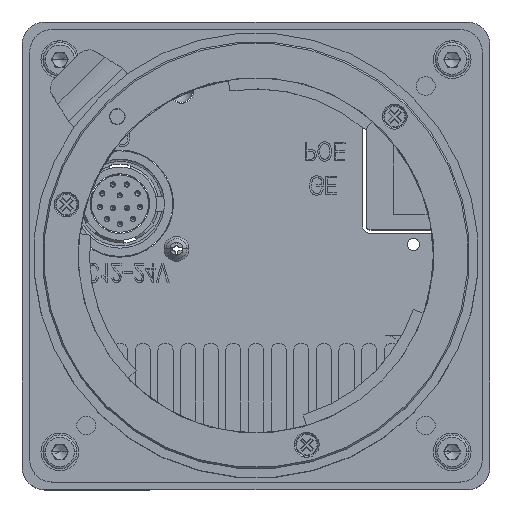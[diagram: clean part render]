
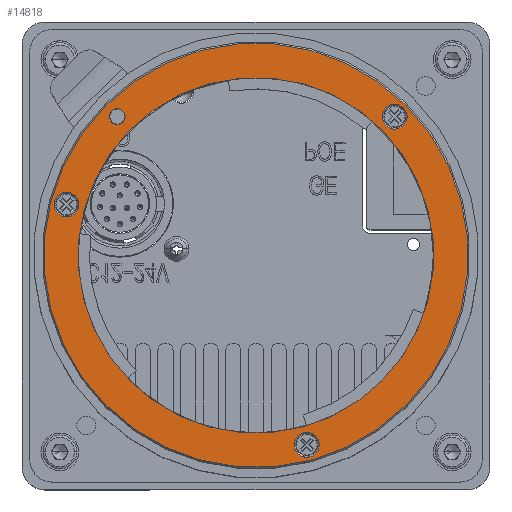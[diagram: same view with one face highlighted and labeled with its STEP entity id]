
A CAD part, top view. The second image highlights one B-rep face of the part: STEP entity #14818.
In plain terms, the highlighted planar face has unit normal (0, 0, 1).
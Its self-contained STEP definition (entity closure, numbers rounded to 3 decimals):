
#21 = AXIS2_PLACEMENT_3D ( 'NONE', #23716, #21647, #8545 ) ;
#210 = DIRECTION ( 'NONE',  ( 0.707, -0.707, 0. ) ) ;
#277 = DIRECTION ( 'NONE',  ( 0.707, -0.707, 0. ) ) ;
#415 = VERTEX_POINT ( 'NONE', #12166 ) ;
#1081 = VERTEX_POINT ( 'NONE', #7226 ) ;
#1287 = FACE_BOUND ( 'NONE', #9951, .T. ) ;
#1352 = AXIS2_PLACEMENT_3D ( 'NONE', #14991, #17033, #6468 ) ;
#1530 = DIRECTION ( 'NONE',  ( 0., 0., -1. ) ) ;
#1793 = CARTESIAN_POINT ( 'NONE',  ( 7.896, -26.281, 36.99 ) ) ;
#2089 = DIRECTION ( 'NONE',  ( 0., 0., 1. ) ) ;
#2091 = DIRECTION ( 'NONE',  ( 0.707, 0.707, 0. ) ) ;
#2403 = VERTEX_POINT ( 'NONE', #3641 ) ;
#2932 = FACE_OUTER_BOUND ( 'NONE', #19448, .T. ) ;
#3134 = ORIENTED_EDGE ( 'NONE', *, *, #6656, .T. ) ;
#3294 = FACE_BOUND ( 'NONE', #21986, .T. ) ;
#3641 = CARTESIAN_POINT ( 'NONE',  ( 19.552, 17.218, 36.99 ) ) ;
#3798 = VERTEX_POINT ( 'NONE', #9801 ) ;
#4236 = DIRECTION ( 'NONE',  ( 0.707, -0.707, 0. ) ) ;
#4639 = EDGE_CURVE ( 'NONE', #5379, #3798, #11630, .T. ) ;
#4992 = CIRCLE ( 'NONE', #17436, 28.125 ) ;
#5066 = CARTESIAN_POINT ( 'NONE',  ( 6.729, -25.114, 36.99 ) ) ;
#5353 = ORIENTED_EDGE ( 'NONE', *, *, #4639, .T. ) ;
#5379 = VERTEX_POINT ( 'NONE', #23000 ) ;
#5784 = AXIS2_PLACEMENT_3D ( 'NONE', #5066, #11286, #7036 ) ;
#5842 = DIRECTION ( 'NONE',  ( 0.707, -0.707, 0. ) ) ;
#5904 = CIRCLE ( 'NONE', #11560, 1.65 ) ;
#5993 = DIRECTION ( 'NONE',  ( 0., 0., -1. ) ) ;
#6096 = CARTESIAN_POINT ( 'NONE',  ( 18.385, 18.385, 36.99 ) ) ;
#6468 = DIRECTION ( 'NONE',  ( 0.707, -0.707, 0. ) ) ;
#6656 = EDGE_CURVE ( 'NONE', #17717, #14138, #4992, .T. ) ;
#7036 = DIRECTION ( 'NONE',  ( 0.707, -0.707, 0. ) ) ;
#7226 = CARTESIAN_POINT ( 'NONE',  ( -19.127, 19.127, 36.99 ) ) ;
#7926 = CIRCLE ( 'NONE', #5784, 1.65 ) ;
#7994 = EDGE_CURVE ( 'NONE', #14138, #17717, #22987, .T. ) ;
#8019 = DIRECTION ( 'NONE',  ( 0., 0., -1. ) ) ;
#8032 = EDGE_CURVE ( 'NONE', #12042, #2403, #5904, .T. ) ;
#8078 = VERTEX_POINT ( 'NONE', #8232 ) ;
#8232 = CARTESIAN_POINT ( 'NONE',  ( -17.642, 17.642, 36.99 ) ) ;
#8317 = AXIS2_PLACEMENT_3D ( 'NONE', #17340, #17059, #277 ) ;
#8464 = ORIENTED_EDGE ( 'NONE', *, *, #18126, .T. ) ;
#8544 = CARTESIAN_POINT ( 'NONE',  ( 0., 0., 36.99 ) ) ;
#8545 = DIRECTION ( 'NONE',  ( 0.707, -0.707, 0. ) ) ;
#8570 = CARTESIAN_POINT ( 'NONE',  ( -25.114, 6.729, 36.99 ) ) ;
#9063 = VERTEX_POINT ( 'NONE', #23358 ) ;
#9171 = AXIS2_PLACEMENT_3D ( 'NONE', #22697, #1530, #5842 ) ;
#9202 = EDGE_CURVE ( 'NONE', #2403, #12042, #14230, .T. ) ;
#9446 = DIRECTION ( 'NONE',  ( 0., 0., -1. ) ) ;
#9801 = CARTESIAN_POINT ( 'NONE',  ( 16.663, -16.663, 36.99 ) ) ;
#9933 = AXIS2_PLACEMENT_3D ( 'NONE', #12301, #25084, #23039 ) ;
#9951 = EDGE_LOOP ( 'NONE', ( #15320, #22179 ) ) ;
#10543 = CARTESIAN_POINT ( 'NONE',  ( 0., 0., 36.99 ) ) ;
#11286 = DIRECTION ( 'NONE',  ( 0., 0., -1. ) ) ;
#11560 = AXIS2_PLACEMENT_3D ( 'NONE', #6096, #5993, #19094 ) ;
#11599 = EDGE_CURVE ( 'NONE', #1081, #8078, #15468, .T. ) ;
#11630 = CIRCLE ( 'NONE', #26343, 23.565 ) ;
#11652 = DIRECTION ( 'NONE',  ( 0.707, -0.707, 0. ) ) ;
#11779 = DIRECTION ( 'NONE',  ( 0., 0., -1. ) ) ;
#12042 = VERTEX_POINT ( 'NONE', #18890 ) ;
#12056 = EDGE_CURVE ( 'NONE', #15092, #9063, #16754, .T. ) ;
#12166 = CARTESIAN_POINT ( 'NONE',  ( -26.281, 7.896, 36.99 ) ) ;
#12301 = CARTESIAN_POINT ( 'NONE',  ( 0., 0., 36.99 ) ) ;
#12350 = EDGE_LOOP ( 'NONE', ( #25883, #24543 ) ) ;
#13086 = DIRECTION ( 'NONE',  ( 0., 0., -1. ) ) ;
#13610 = CARTESIAN_POINT ( 'NONE',  ( -18.385, 18.385, 36.99 ) ) ;
#13852 = CARTESIAN_POINT ( 'NONE',  ( 19.887, 19.887, 36.99 ) ) ;
#14138 = VERTEX_POINT ( 'NONE', #13852 ) ;
#14196 = CIRCLE ( 'NONE', #8317, 23.565 ) ;
#14230 = CIRCLE ( 'NONE', #1352, 1.65 ) ;
#14366 = EDGE_CURVE ( 'NONE', #22379, #415, #22197, .T. ) ;
#14818 = ADVANCED_FACE ( 'NONE', ( #3294, #2932, #1287, #26068, #22733, #16061 ), #21359, .T. ) ;
#14991 = CARTESIAN_POINT ( 'NONE',  ( 18.385, 18.385, 36.99 ) ) ;
#15016 = CIRCLE ( 'NONE', #21, 1.65 ) ;
#15092 = VERTEX_POINT ( 'NONE', #1793 ) ;
#15099 = AXIS2_PLACEMENT_3D ( 'NONE', #10543, #2089, #4236 ) ;
#15320 = ORIENTED_EDGE ( 'NONE', *, *, #16208, .T. ) ;
#15468 = CIRCLE ( 'NONE', #26838, 1.05 ) ;
#16061 = FACE_BOUND ( 'NONE', #23525, .T. ) ;
#16208 = EDGE_CURVE ( 'NONE', #8078, #1081, #16661, .T. ) ;
#16418 = EDGE_CURVE ( 'NONE', #415, #22379, #15016, .T. ) ;
#16490 = EDGE_CURVE ( 'NONE', #9063, #15092, #7926, .T. ) ;
#16661 = CIRCLE ( 'NONE', #9171, 1.05 ) ;
#16754 = CIRCLE ( 'NONE', #24511, 1.65 ) ;
#17033 = DIRECTION ( 'NONE',  ( 0., 0., -1. ) ) ;
#17059 = DIRECTION ( 'NONE',  ( 0., 0., -1. ) ) ;
#17215 = AXIS2_PLACEMENT_3D ( 'NONE', #8570, #13086, #210 ) ;
#17340 = CARTESIAN_POINT ( 'NONE',  ( 0., 0., 36.99 ) ) ;
#17369 = ORIENTED_EDGE ( 'NONE', *, *, #16418, .T. ) ;
#17436 = AXIS2_PLACEMENT_3D ( 'NONE', #8544, #27334, #2091 ) ;
#17717 = VERTEX_POINT ( 'NONE', #24015 ) ;
#18126 = EDGE_CURVE ( 'NONE', #3798, #5379, #14196, .T. ) ;
#18277 = ORIENTED_EDGE ( 'NONE', *, *, #14366, .T. ) ;
#18890 = CARTESIAN_POINT ( 'NONE',  ( 17.218, 19.552, 36.99 ) ) ;
#19094 = DIRECTION ( 'NONE',  ( 0.707, -0.707, 0. ) ) ;
#19448 = EDGE_LOOP ( 'NONE', ( #25923, #3134 ) ) ;
#19971 = DIRECTION ( 'NONE',  ( 0.707, -0.707, 0. ) ) ;
#20572 = ORIENTED_EDGE ( 'NONE', *, *, #12056, .T. ) ;
#20854 = CARTESIAN_POINT ( 'NONE',  ( 6.729, -25.114, 36.99 ) ) ;
#21359 = PLANE ( 'NONE',  #15099 ) ;
#21647 = DIRECTION ( 'NONE',  ( 0., 0., -1. ) ) ;
#21986 = EDGE_LOOP ( 'NONE', ( #8464, #5353 ) ) ;
#22179 = ORIENTED_EDGE ( 'NONE', *, *, #11599, .T. ) ;
#22197 = CIRCLE ( 'NONE', #17215, 1.65 ) ;
#22288 = CARTESIAN_POINT ( 'NONE',  ( 0., 0., 36.99 ) ) ;
#22379 = VERTEX_POINT ( 'NONE', #24532 ) ;
#22697 = CARTESIAN_POINT ( 'NONE',  ( -18.385, 18.385, 36.99 ) ) ;
#22733 = FACE_BOUND ( 'NONE', #24977, .T. ) ;
#22987 = CIRCLE ( 'NONE', #9933, 28.125 ) ;
#23000 = CARTESIAN_POINT ( 'NONE',  ( -16.663, 16.663, 36.99 ) ) ;
#23021 = DIRECTION ( 'NONE',  ( 0.707, -0.707, 0. ) ) ;
#23039 = DIRECTION ( 'NONE',  ( 0.707, 0.707, 0. ) ) ;
#23358 = CARTESIAN_POINT ( 'NONE',  ( 5.563, -23.947, 36.99 ) ) ;
#23525 = EDGE_LOOP ( 'NONE', ( #20572, #27448 ) ) ;
#23716 = CARTESIAN_POINT ( 'NONE',  ( -25.114, 6.729, 36.99 ) ) ;
#24015 = CARTESIAN_POINT ( 'NONE',  ( -19.887, -19.887, 36.99 ) ) ;
#24511 = AXIS2_PLACEMENT_3D ( 'NONE', #20854, #8019, #23021 ) ;
#24532 = CARTESIAN_POINT ( 'NONE',  ( -23.947, 5.563, 36.99 ) ) ;
#24543 = ORIENTED_EDGE ( 'NONE', *, *, #8032, .T. ) ;
#24977 = EDGE_LOOP ( 'NONE', ( #18277, #17369 ) ) ;
#25084 = DIRECTION ( 'NONE',  ( 0., 0., 1. ) ) ;
#25883 = ORIENTED_EDGE ( 'NONE', *, *, #9202, .T. ) ;
#25923 = ORIENTED_EDGE ( 'NONE', *, *, #7994, .T. ) ;
#26068 = FACE_BOUND ( 'NONE', #12350, .T. ) ;
#26343 = AXIS2_PLACEMENT_3D ( 'NONE', #22288, #9446, #11652 ) ;
#26838 = AXIS2_PLACEMENT_3D ( 'NONE', #13610, #11779, #19971 ) ;
#27334 = DIRECTION ( 'NONE',  ( 0., 0., 1. ) ) ;
#27448 = ORIENTED_EDGE ( 'NONE', *, *, #16490, .T. ) ;
